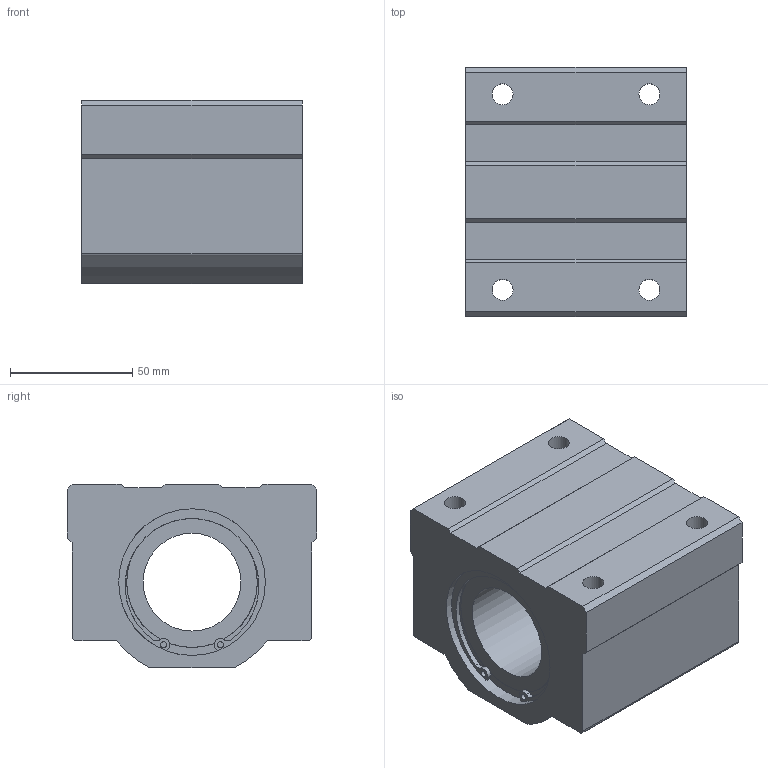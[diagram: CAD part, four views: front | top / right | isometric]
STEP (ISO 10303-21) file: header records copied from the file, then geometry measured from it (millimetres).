
FILE_DESCRIPTION((''),'2;1');
FILE_NAME('D:\製品 (図面)\カタログ用3D\リニアベアリング関連(改)\STEP形式\LH-B\LH40B.stp','2010-01-25T10:22:01',('Tsuchiya'),(''),'Autodesk Inventor 10','Autodesk Inventor 10','');
FILE_SCHEMA(('AUTOMOTIVE_DESIGN { 1 0 10303 214 1 1 1 1 }'));
Length unit declared in the file: millimetre
Products named in the file (1): LH40B
Bounding box: 90 x 102 x 75 mm (x, y, z)
Volume: 474224.7 mm3; surface area: 62709.2 mm2
Topology: 1 solids, 3 shells, 81 faces, 199 edges, 130 vertices
Faces by surface type: plane 44, cylinder 20, bspline 17
Full cylindrical faces by diameter (mm): 2.5 x2, 40 x1, 53.4 x2, 57 x2, 60 x4
Entity records: 2448 total; most frequent: CARTESIAN_POINT 583, DIRECTION 390, ORIENTED_EDGE 348, EDGE_CURVE 174, AXIS2_PLACEMENT_3D 151, VERTEX_POINT 122, EDGE_LOOP 118, VECTOR 88
